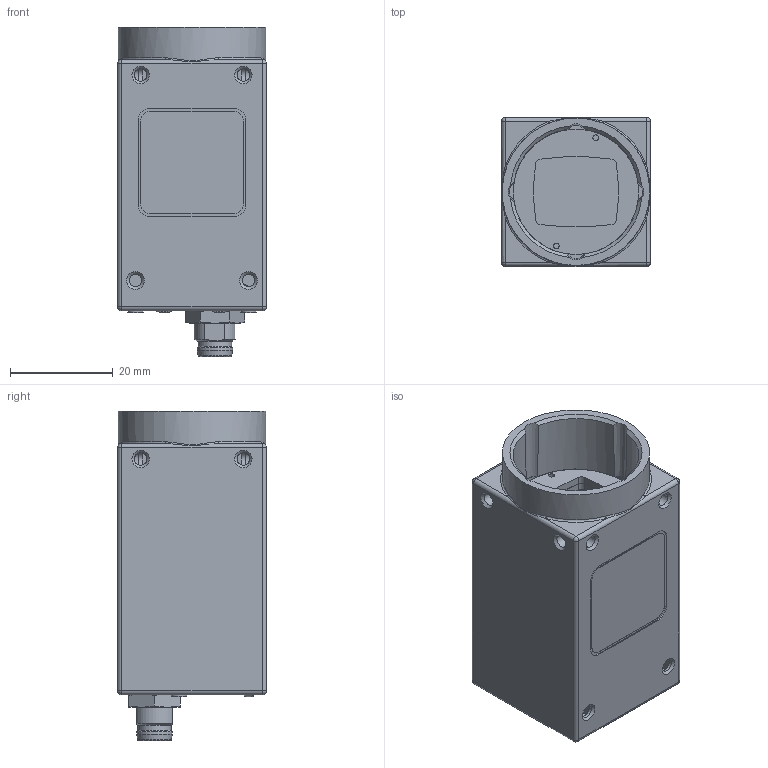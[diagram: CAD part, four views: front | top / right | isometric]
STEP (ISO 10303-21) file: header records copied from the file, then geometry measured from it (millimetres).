
FILE_DESCRIPTION( ( 'Unknown' ), '1' );
FILE_NAME( 'C:/Users/rih/Desktop/11194343_VCXG-201M.R.stp', 'Unknown', ( 'Unknown' ), ( 'Unknown' ), 'PSStep 19.0.9', 'Unknown', ' ' );
FILE_SCHEMA( ( 'AUTOMOTIVE_DESIGN { 1 0 10303 214 1 1 1 1 }' ) );
Length unit declared in the file: millimetre
Products named in the file (7): 11080147
Bounding box: 29 x 29 x 64.05 mm (x, y, z)
Volume: 13409.8 mm3; surface area: 23122.8 mm2
Topology: 7 solids, 11 shells, 2223 faces, 5975 edges, 3872 vertices
Faces by surface type: plane 1303, cylinder 713, cone 74, torus 53, sphere 48, bspline 24, extrusion 8
Full cylindrical faces by diameter (mm): 0.217 x1, 0.6 x16, 0.9 x117, 1.075 x2, 1.1 x2, 1.4 x4, 1.567 x2, 1.6 x2, 1.9 x4, 2.459 x10, 3 x4, 6.5 x1, 6.9 x1, 8.4 x1, 9 x1, 9.4 x1, 24.4 x1, 26 x1, 28.7 x1
Entity records: 87021 total; most frequent: CARTESIAN_POINT 15009, DIRECTION 11151, ORIENTED_EDGE 11066, EDGE_CURVE 5533, AXIS2_PLACEMENT_3D 3816, VERTEX_POINT 3686, VECTOR 3519, LINE 3511
